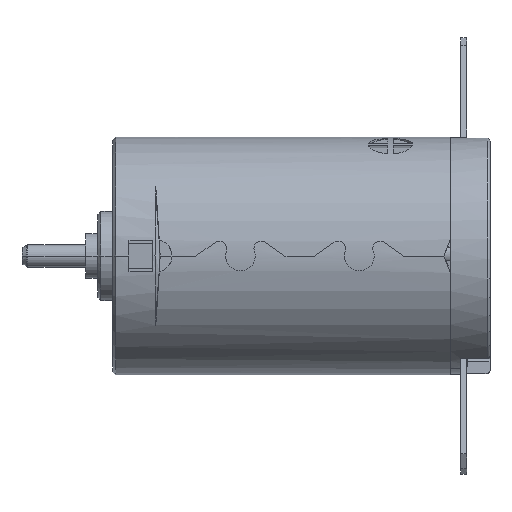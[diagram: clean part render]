
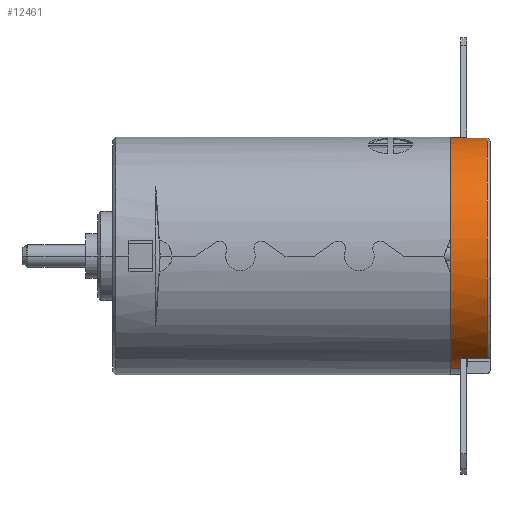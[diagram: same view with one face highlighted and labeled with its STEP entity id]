
A CAD part, front view. The second image highlights one B-rep face of the part: STEP entity #12461.
In plain terms, the highlighted cylindrical face has radius 7.95 mm (diameter 15.9 mm), a partial arc.
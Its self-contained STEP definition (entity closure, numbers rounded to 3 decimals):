
#710=CARTESIAN_POINT('',(21.32,0.,0.));
#711=DIRECTION('',(-1.,0.,0.));
#712=DIRECTION('',(0.,0.,1.));
#713=AXIS2_PLACEMENT_3D('',#710,#711,#712);
#1614=CARTESIAN_POINT('',(21.32,0.,0.));
#1615=DIRECTION('',(1.,0.,0.));
#1616=DIRECTION('',(0.,-0.99,0.142));
#1617=AXIS2_PLACEMENT_3D('',#1614,#1615,#1616);
#1672=CARTESIAN_POINT('',(21.32,0.,0.));
#1673=DIRECTION('',(-1.,0.,0.));
#1674=DIRECTION('',(0.,-0.309,-0.951));
#1675=AXIS2_PLACEMENT_3D('',#1672,#1673,#1674);
#3820=CARTESIAN_POINT('',(22.02,0.,0.));
#3821=DIRECTION('',(1.,0.,0.));
#3822=DIRECTION('',(0.,0.137,0.991));
#3823=AXIS2_PLACEMENT_3D('',#3820,#3821,#3822);
#3828=CARTESIAN_POINT('',(22.02,0.,0.));
#3829=DIRECTION('',(1.,0.,0.));
#3830=DIRECTION('',(0.,-0.501,-0.866));
#3831=AXIS2_PLACEMENT_3D('',#3828,#3829,#3830);
#3836=CARTESIAN_POINT('',(22.02,0.,0.));
#3837=DIRECTION('',(-1.,0.,0.));
#3838=DIRECTION('',(0.,-0.309,-0.951));
#3839=AXIS2_PLACEMENT_3D('',#3836,#3837,#3838);
#3844=DIRECTION('',(-1.,0.,0.));
#3845=VECTOR('',#3844,0.7);
#3846=CARTESIAN_POINT('',(22.02,-2.457,-7.561));
#3847=LINE('',#3846,#3845);
#3851=DIRECTION('',(-1.,0.,0.));
#3852=VECTOR('',#3851,0.7);
#3853=CARTESIAN_POINT('',(22.02,2.457,7.561));
#3854=LINE('',#3853,#3852);
#3858=CARTESIAN_POINT('',(22.02,0.,0.));
#3859=DIRECTION('',(-1.,0.,0.));
#3860=DIRECTION('',(0.,0.137,0.991));
#3861=AXIS2_PLACEMENT_3D('',#3858,#3859,#3860);
#3939=CARTESIAN_POINT('',(23.8,0.826,7.907));
#3958=DIRECTION('',(-1.,0.,0.));
#3959=VECTOR('',#3958,1.78);
#3960=CARTESIAN_POINT('',(23.8,0.826,7.907));
#3961=LINE('',#3960,#3959);
#4077=DIRECTION('',(1.,0.,0.));
#4078=VECTOR('',#4077,1.78);
#4079=CARTESIAN_POINT('',(22.02,-3.979,-6.882));
#4080=LINE('',#4079,#4078);
#4098=CARTESIAN_POINT('',(23.8,-3.979,-6.882));
#5352=CARTESIAN_POINT('',(21.32,0.,0.));
#5353=DIRECTION('',(-1.,0.,0.));
#5354=DIRECTION('',(0.,-0.99,0.142));
#5355=AXIS2_PLACEMENT_3D('',#5352,#5353,#5354);
#6469=CARTESIAN_POINT('',(23.8,0.,0.));
#6470=DIRECTION('',(-1.,0.,0.));
#6471=DIRECTION('',(0.,-0.501,-0.866));
#6472=AXIS2_PLACEMENT_3D('',#6469,#6470,#6471);
#8749=CARTESIAN_POINT('',(21.32,-7.87,-1.127));
#8751=VERTEX_POINT('',#8749);
#8753=CARTESIAN_POINT('',(21.32,-7.87,1.127));
#8755=VERTEX_POINT('',#8753);
#8785=CARTESIAN_POINT('',(21.32,2.457,7.561));
#8786=VERTEX_POINT('',#8785);
#8789=CARTESIAN_POINT('',(21.32,0.,7.95));
#8790=VERTEX_POINT('',#8789);
#8791=CARTESIAN_POINT('',(21.32,-2.457,-7.561));
#8792=VERTEX_POINT('',#8791);
#8833=CARTESIAN_POINT('',(22.02,-3.75,-7.01));
#8835=VERTEX_POINT('',#8833);
#8853=CARTESIAN_POINT('',(22.02,-2.457,-7.561));
#8854=VERTEX_POINT('',#8853);
#8909=CARTESIAN_POINT('',(22.02,1.087,7.875));
#8910=VERTEX_POINT('',#8909);
#8911=CARTESIAN_POINT('',(22.02,2.457,7.561));
#8912=VERTEX_POINT('',#8911);
#9073=VERTEX_POINT('',#3939);
#9076=VERTEX_POINT('',#4098);
#9118=CARTESIAN_POINT('',(22.02,-3.979,-6.882));
#9120=VERTEX_POINT('',#9118);
#9121=CARTESIAN_POINT('',(22.02,0.826,7.907));
#9123=VERTEX_POINT('',#9121);
#12433=CARTESIAN_POINT('',(22.54,0.,0.));
#12434=DIRECTION('',(-1.,0.,0.));
#12435=DIRECTION('',(0.,0.309,0.951));
#12436=AXIS2_PLACEMENT_3D('',#12433,#12434,#12435);
#12437=CYLINDRICAL_SURFACE('',#12436,7.95);
#12439=ORIENTED_EDGE('',*,*,#12438,.T.);
#12441=ORIENTED_EDGE('',*,*,#12440,.F.);
#12443=ORIENTED_EDGE('',*,*,#12442,.F.);
#12445=ORIENTED_EDGE('',*,*,#12444,.F.);
#12447=ORIENTED_EDGE('',*,*,#12446,.T.);
#12449=ORIENTED_EDGE('',*,*,#12448,.F.);
#12450=ORIENTED_EDGE('',*,*,#9914,.T.);
#12451=ORIENTED_EDGE('',*,*,#10559,.T.);
#12452=ORIENTED_EDGE('',*,*,#10507,.F.);
#12454=ORIENTED_EDGE('',*,*,#12453,.T.);
#12455=ORIENTED_EDGE('',*,*,#9878,.T.);
#12456=ORIENTED_EDGE('',*,*,#9905,.F.);
#12458=ORIENTED_EDGE('',*,*,#12457,.F.);
#12459=EDGE_LOOP('',(#12439,#12441,#12443,#12445,#12447,#12449,#12450,#12451,
#12452,#12454,#12455,#12456,#12458));
#12460=FACE_OUTER_BOUND('',#12459,.F.);
#12461=ADVANCED_FACE('',(#12460),#12437,.T.);
#714=CIRCLE('',#713,7.95);
#1618=CIRCLE('',#1617,7.95);
#1676=CIRCLE('',#1675,7.95);
#3824=CIRCLE('',#3823,7.95);
#3832=CIRCLE('',#3831,7.95);
#3840=CIRCLE('',#3839,7.95);
#3862=CIRCLE('',#3861,7.95);
#5356=CIRCLE('',#5355,7.95);
#6473=CIRCLE('',#6472,7.95);
#9878=EDGE_CURVE('',#8790,#8786,#714,.T.);
#9905=EDGE_CURVE('',#8912,#8786,#3854,.T.);
#9914=EDGE_CURVE('',#8854,#8792,#3847,.T.);
#10507=EDGE_CURVE('',#8755,#8751,#1618,.T.);
#10559=EDGE_CURVE('',#8792,#8751,#1676,.T.);
#12438=EDGE_CURVE('',#8910,#9123,#3824,.T.);
#12440=EDGE_CURVE('',#9073,#9123,#3961,.T.);
#12442=EDGE_CURVE('',#9076,#9073,#6473,.T.);
#12444=EDGE_CURVE('',#9120,#9076,#4080,.T.);
#12446=EDGE_CURVE('',#9120,#8835,#3832,.T.);
#12448=EDGE_CURVE('',#8854,#8835,#3840,.T.);
#12453=EDGE_CURVE('',#8755,#8790,#5356,.T.);
#12457=EDGE_CURVE('',#8910,#8912,#3862,.T.);
